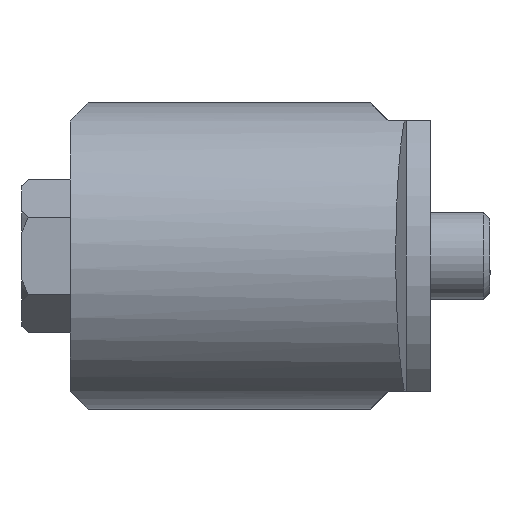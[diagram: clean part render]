
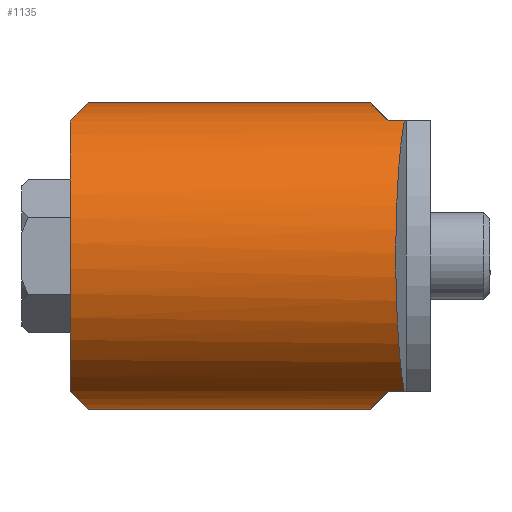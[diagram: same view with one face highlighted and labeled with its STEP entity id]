
A CAD part, left-side view. The second image highlights one B-rep face of the part: STEP entity #1135.
In plain terms, the highlighted cylindrical face has radius 12.75 mm (diameter 25.5 mm), a partial arc.
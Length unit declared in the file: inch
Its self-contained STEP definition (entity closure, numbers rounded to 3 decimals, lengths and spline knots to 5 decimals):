
#25=ELLIPSE('',#1255,0.70989,0.50197);
#26=ELLIPSE('',#1258,0.70989,0.50197);
#27=ELLIPSE('',#1261,0.70989,0.50197);
#28=ELLIPSE('',#1263,0.70989,0.50197);
#29=ELLIPSE('',#1267,0.50473,0.50197);
#122=FACE_OUTER_BOUND('',#190,.T.);
#190=EDGE_LOOP('',(#847,#848,#849,#850,#851,#852,#853,#854,#855,#856));
#244=LINE('',#1807,#312);
#257=LINE('',#1837,#325);
#266=LINE('',#1862,#334);
#267=LINE('',#1864,#335);
#312=VECTOR('',#1479,0.3937);
#325=VECTOR('',#1498,0.3937);
#334=VECTOR('',#1525,0.3937);
#335=VECTOR('',#1528,0.3937);
#408=CIRCLE('',#1269,0.50197);
#478=VERTEX_POINT('',#1797);
#479=VERTEX_POINT('',#1798);
#482=VERTEX_POINT('',#1806);
#487=VERTEX_POINT('',#1818);
#488=VERTEX_POINT('',#1819);
#495=VERTEX_POINT('',#1834);
#496=VERTEX_POINT('',#1836);
#498=VERTEX_POINT('',#1842);
#500=VERTEX_POINT('',#1848);
#501=VERTEX_POINT('',#1849);
#602=EDGE_CURVE('',#478,#479,#25,.T.);
#606=EDGE_CURVE('',#479,#482,#244,.T.);
#612=EDGE_CURVE('',#487,#488,#26,.T.);
#620=EDGE_CURVE('',#496,#495,#257,.T.);
#623=EDGE_CURVE('',#495,#498,#27,.T.);
#626=EDGE_CURVE('',#500,#501,#28,.T.);
#632=EDGE_CURVE('',#482,#496,#29,.T.);
#633=EDGE_CURVE('',#498,#500,#266,.T.);
#634=EDGE_CURVE('',#487,#501,#408,.T.);
#635=EDGE_CURVE('',#478,#488,#267,.T.);
#847=ORIENTED_EDGE('',*,*,#602,.T.);
#848=ORIENTED_EDGE('',*,*,#606,.T.);
#849=ORIENTED_EDGE('',*,*,#632,.T.);
#850=ORIENTED_EDGE('',*,*,#620,.T.);
#851=ORIENTED_EDGE('',*,*,#623,.T.);
#852=ORIENTED_EDGE('',*,*,#633,.T.);
#853=ORIENTED_EDGE('',*,*,#626,.T.);
#854=ORIENTED_EDGE('',*,*,#634,.F.);
#855=ORIENTED_EDGE('',*,*,#612,.T.);
#856=ORIENTED_EDGE('',*,*,#635,.F.);
#1031=CYLINDRICAL_SURFACE('',#1268,0.50197);
#1135=ADVANCED_FACE('',(#122),#1031,.T.);
#1255=AXIS2_PLACEMENT_3D('',#1799,#1472,#1473);
#1258=AXIS2_PLACEMENT_3D('',#1820,#1487,#1488);
#1261=AXIS2_PLACEMENT_3D('',#1843,#1503,#1504);
#1263=AXIS2_PLACEMENT_3D('',#1850,#1509,#1510);
#1267=AXIS2_PLACEMENT_3D('',#1860,#1521,#1522);
#1268=AXIS2_PLACEMENT_3D('',#1861,#1523,#1524);
#1269=AXIS2_PLACEMENT_3D('',#1863,#1526,#1527);
#1472=DIRECTION('center_axis',(0.,0.707,0.707));
#1473=DIRECTION('ref_axis',(0.,-0.707,0.707));
#1479=DIRECTION('',(0.,-1.,0.));
#1487=DIRECTION('center_axis',(0.,-0.707,0.707));
#1488=DIRECTION('ref_axis',(0.,0.707,0.707));
#1498=DIRECTION('',(0.,1.,0.));
#1503=DIRECTION('center_axis',(0.,0.707,-0.707));
#1504=DIRECTION('ref_axis',(0.,0.707,0.707));
#1509=DIRECTION('center_axis',(0.,-0.707,-0.707));
#1510=DIRECTION('ref_axis',(0.,-0.707,0.707));
#1521=DIRECTION('center_axis',(0.105,0.995,0.));
#1522=DIRECTION('ref_axis',(-0.995,0.105,0.));
#1523=DIRECTION('center_axis',(0.,-1.,0.));
#1524=DIRECTION('ref_axis',(0.,0.,1.));
#1525=DIRECTION('',(0.,1.,0.));
#1526=DIRECTION('center_axis',(0.,1.,0.));
#1527=DIRECTION('ref_axis',(0.,0.,1.));
#1528=DIRECTION('',(0.,1.,0.));
#1797=CARTESIAN_POINT('',(-1.90163,-0.02817,-1.64506));
#1798=CARTESIAN_POINT('',(-2.13785,-0.08722,-1.58601));
#1799=CARTESIAN_POINT('Origin',(-1.90163,-0.53014,-1.14309));
#1806=CARTESIAN_POINT('',(-2.13785,-0.14069,-1.58601));
#1807=CARTESIAN_POINT('',(-2.13785,0.95608,-1.58601));
#1818=CARTESIAN_POINT('',(-2.13785,0.95608,-1.58601));
#1819=CARTESIAN_POINT('',(-1.90163,0.89703,-1.64506));
#1820=CARTESIAN_POINT('Origin',(-1.90163,1.399,-1.14309));
#1834=CARTESIAN_POINT('',(-2.13785,-0.08722,-0.70018));
#1836=CARTESIAN_POINT('',(-2.13785,-0.14069,-0.70018));
#1837=CARTESIAN_POINT('',(-2.13785,0.95608,-0.70018));
#1842=CARTESIAN_POINT('',(-1.90163,-0.02817,-0.64112));
#1843=CARTESIAN_POINT('Origin',(-1.90163,-0.53014,-1.14309));
#1848=CARTESIAN_POINT('',(-1.90163,0.89703,-0.64112));
#1849=CARTESIAN_POINT('',(-2.13785,0.95608,-0.70018));
#1850=CARTESIAN_POINT('Origin',(-1.90163,1.399,-1.14309));
#1860=CARTESIAN_POINT('Origin',(-1.90163,-0.16552,-1.14309));
#1861=CARTESIAN_POINT('Origin',(-1.90163,0.95608,-1.14309));
#1862=CARTESIAN_POINT('',(-1.90163,0.95608,-0.64112));
#1863=CARTESIAN_POINT('Origin',(-1.90163,0.95608,-1.14309));
#1864=CARTESIAN_POINT('',(-1.90163,0.95608,-1.64506));
